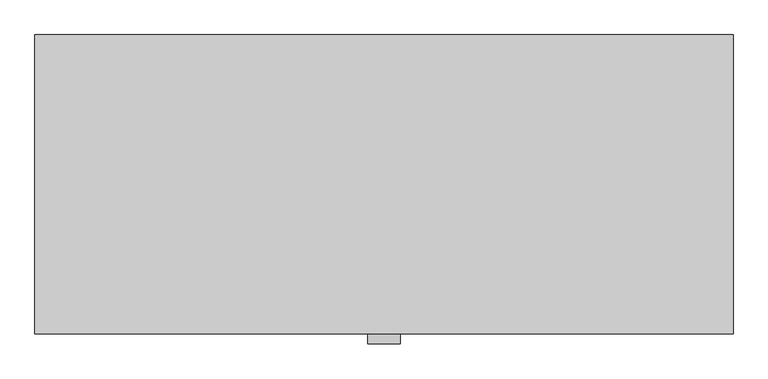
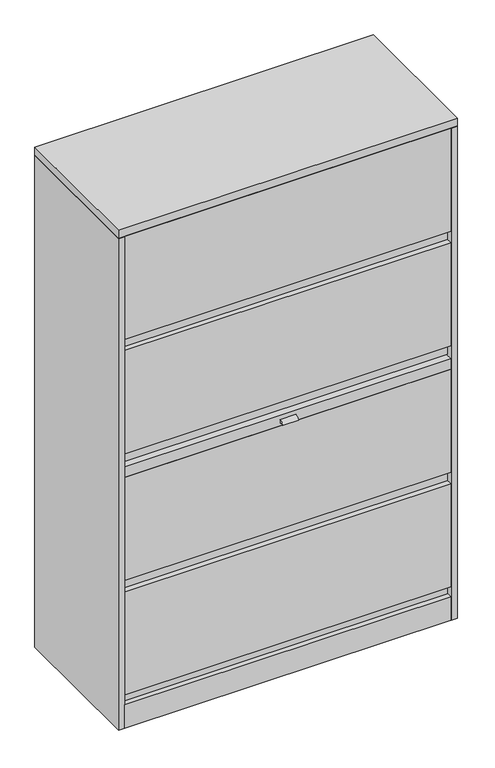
"""IFC4 building model written with IfcOpenShell, lengths in millimetres: furniture geometry, Steelcase - 900 Series - Storage - Lateral File With Posting Shelf - Flush Steel : Four 15H Lift Up Door - 42W."""

import ifcopenshell
import ifcopenshell.guid

model = None  # the IFC model being written
_history = None  # IfcOwnerHistory: only IFC2X3 demands one
_inside = {}  # id of a spatial element -> (the spatial element, [elements in it])
_under = {}  # id of a project, library or spatial element -> (it, [spatial elements below it])
_declared = {}  # id of a project -> (the project, [libraries it declares])
_typed = {}  # id of a type object -> (the type object, [elements of that type])
_made_of = {}  # id of a material, layer set ... -> (it, [elements and type objects made of it])


def new_model(schema):
    """Start an empty IFC model of exactly this schema.

    Asked for "IFC4X3", IfcOpenShell would pick the latest addendum, in which some entities
    have other attributes; the version numbers below select the first issue.
    IFC2X3 requires an IfcOwnerHistory on every rooted entity: one is made here for all.
    """
    global model, _history
    if schema == "IFC4X3":
        model = ifcopenshell.file(schema_version=(4, 3, 0, 0))
    else:
        model = ifcopenshell.file(schema=schema)
    _inside.clear()
    _under.clear()
    _declared.clear()
    _typed.clear()
    _made_of.clear()
    _history = None
    if model.schema == "IFC2X3":
        org = make("IfcOrganization", Name="unknown")
        user = make(
            "IfcPersonAndOrganization",
            ThePerson=make("IfcPerson", FamilyName="unknown"),
            TheOrganization=org,
        )
        app = make(
            "IfcApplication",
            ApplicationDeveloper=org,
            Version="unknown",
            ApplicationFullName="unknown",
            ApplicationIdentifier="unknown",
        )
        _history = make(
            "IfcOwnerHistory",
            OwningUser=user,
            OwningApplication=app,
            ChangeAction="ADDED",
            CreationDate=0,
        )
    return model


def make(cls, **values):
    """One entity of the class cls with the attributes given. An attribute that is None is left unset."""
    return model.create_entity(
        cls, **{name: value for name, value in values.items() if value is not None}
    )


def rooted(cls, **values):
    """An entity with a GlobalId (a new one), such as an element, a storey or a relation."""
    return make(cls, GlobalId=ifcopenshell.guid.new(), OwnerHistory=_history, **values)


def si_unit(unit_type, name, prefix=None):
    """IfcSIUnit, for example si_unit("LENGTHUNIT", "METRE", prefix="MILLI")."""
    return make("IfcSIUnit", UnitType=unit_type, Prefix=prefix, Name=name)


def assignment(units):
    """IfcUnitAssignment: the units of a project."""
    return None if units is None else make("IfcUnitAssignment", Units=units)


def point(xyz):
    """IfcCartesianPoint."""
    return None if xyz is None else make("IfcCartesianPoint", Coordinates=xyz)


def direction(xyz):
    """IfcDirection."""
    return None if xyz is None else make("IfcDirection", DirectionRatios=xyz)


def frame(location, z_axis=None, x_axis=None):
    """IfcAxis2Placement3D, a coordinate frame: its origin and axes. An axis left out is left unset."""
    return make(
        "IfcAxis2Placement3D",
        Location=point(location),
        Axis=direction(z_axis),
        RefDirection=direction(x_axis),
    )


def frame_2d(location, x_axis=None):
    """IfcAxis2Placement2D, a coordinate frame in the plane: its origin and x axis."""
    return make(
        "IfcAxis2Placement2D", Location=point(location), RefDirection=direction(x_axis)
    )


def origin():
    """The frame at (0, 0, 0) with its axes left unset."""
    return frame((0.0, 0.0, 0.0))


def origin_with_axes():
    """The frame at (0, 0, 0) with the z axis (0, 0, 1) and the x axis (1, 0, 0) written out."""
    return frame((0.0, 0.0, 0.0), z_axis=(0.0, 0.0, 1.0), x_axis=(1.0, 0.0, 0.0))


def place(relative_to, where):
    """IfcLocalPlacement: puts the frame where relative to a parent placement (None: the world)."""
    return make(
        "IfcLocalPlacement", PlacementRelTo=relative_to, RelativePlacement=where
    )


def context(
    kind, dimensions, precision=None, world=None, true_north=None, identifier=None
):
    """IfcGeometricRepresentationContext, for example the 3D "Model" context."""
    return make(
        "IfcGeometricRepresentationContext",
        ContextIdentifier=identifier,
        ContextType=kind,
        CoordinateSpaceDimension=dimensions,
        Precision=precision,
        WorldCoordinateSystem=world,
        TrueNorth=true_north,
    )


def project(units=None, contexts=None):
    """IfcProject with its units and contexts."""
    return rooted(
        "IfcProject",
        Name="project",
        RepresentationContexts=contexts,
        UnitsInContext=assignment(units),
    )


def spatial(cls, under=None, at=None, **own):
    """A site, building, storey or space (cls), placed at a placement, below another one or the project."""
    s = rooted(cls, ObjectPlacement=at, **own)
    if under is not None:
        _under.setdefault(under.id(), (under, []))[1].append(s)
    return s


def polyline(points):
    """IfcPolyline through the points."""
    return make("IfcPolyline", Points=[point(p) for p in points])


def circle_curve(where, radius):
    """IfcCircle in the frame where."""
    return make("IfcCircle", Position=where, Radius=radius)


def trimmed(basis, trim1, trim2, sense, master):
    """IfcTrimmedCurve: the piece of a basis curve between two trims."""
    return make(
        "IfcTrimmedCurve",
        BasisCurve=basis,
        Trim1=trim1,
        Trim2=trim2,
        SenseAgreement=sense,
        MasterRepresentation=master,
    )


def segment(curve, same_sense, transition):
    """IfcCompositeCurveSegment."""
    return make(
        "IfcCompositeCurveSegment",
        Transition=transition,
        SameSense=same_sense,
        ParentCurve=curve,
    )


def composite_curve(segments, self_intersect=None):
    """IfcCompositeCurve: segments joined end to end."""
    return make("IfcCompositeCurve", Segments=segments, SelfIntersect=self_intersect)


def outline(outer, holes=None, kind="AREA"):
    """IfcArbitraryClosedProfileDef: a profile drawn as a closed curve; with holes, ...WithVoids."""
    if holes is None:
        return make("IfcArbitraryClosedProfileDef", ProfileType=kind, OuterCurve=outer)
    return make(
        "IfcArbitraryProfileDefWithVoids",
        ProfileType=kind,
        OuterCurve=outer,
        InnerCurves=holes,
    )


def extrude(swept, where, along, depth):
    """IfcExtrudedAreaSolid: the profile swept, set in the frame where, extruded along a direction by depth."""
    return make(
        "IfcExtrudedAreaSolid",
        SweptArea=swept,
        Position=where,
        ExtrudedDirection=direction(along),
        Depth=depth,
    )


def faces_of(points, faces, orient=None, outer=None):
    """IfcFace entities. A face is a list of loops; a loop is a list of indices into points, from 0.

    orient and outer hold one flag for each loop. By default every Orientation is true, the
    first loop of a face is its IfcFaceOuterBound and the others are IfcFaceBound.
    """
    made = []
    for i, loops in enumerate(faces):
        bounds = []
        for j, loop in enumerate(loops):
            is_outer = j == 0 if outer is None else outer[i][j]
            bounds.append(
                make(
                    "IfcFaceOuterBound" if is_outer else "IfcFaceBound",
                    Bound=make("IfcPolyLoop", Polygon=[points[k] for k in loop]),
                    Orientation=True if orient is None else orient[i][j],
                )
            )
        made.append(make("IfcFace", Bounds=bounds))
    return made


def faceted_brep(points, faces, orient=None, outer=None, voids=None):
    """IfcFacetedBrep: a solid bounded by flat faces; with voids (closed shells), ...WithVoids."""
    shared = [point(p) for p in points]
    hull = make("IfcClosedShell", CfsFaces=faces_of(shared, faces, orient, outer))
    if voids is None:
        return make("IfcFacetedBrep", Outer=hull)
    return make(
        "IfcFacetedBrepWithVoids",
        Outer=hull,
        Voids=[
            make(cls, CfsFaces=faces_of(shared, fs, o, b)) for cls, fs, o, b in voids
        ],
    )


def shape(context_of_items, identifier, shape_type, items):
    """IfcShapeRepresentation: the items that make up one representation, for example the "Body"."""
    return make(
        "IfcShapeRepresentation",
        ContextOfItems=context_of_items,
        RepresentationIdentifier=identifier,
        RepresentationType=shape_type,
        Items=items,
    )


def source(mapping_origin, context_of_items, identifier, shape_type, items):
    """IfcRepresentationMap: a shape defined once, which mapped items show again and again."""
    return make(
        "IfcRepresentationMap",
        MappingOrigin=mapping_origin,
        MappedRepresentation=shape(context_of_items, identifier, shape_type, items),
    )


def transform(
    local_origin,
    x_axis=None,
    y_axis=None,
    z_axis=None,
    scale=None,
    scale2=None,
    scale3=None,
    uniform=True,
):
    """IfcCartesianTransformationOperator3D, or its non-uniform kind. x_axis, y_axis, z_axis: its Axis1, 2, 3."""
    if uniform:
        return make(
            "IfcCartesianTransformationOperator3D",
            Axis1=direction(x_axis),
            Axis2=direction(y_axis),
            LocalOrigin=point(local_origin),
            Scale=scale,
            Axis3=direction(z_axis),
        )
    return make(
        "IfcCartesianTransformationOperator3DnonUniform",
        Axis1=direction(x_axis),
        Axis2=direction(y_axis),
        LocalOrigin=point(local_origin),
        Scale=scale,
        Axis3=direction(z_axis),
        Scale2=scale2,
        Scale3=scale3,
    )


def mapped(mapping_source, mapping_target):
    """IfcMappedItem: shows the shape of a source again, moved by a transform."""
    return make(
        "IfcMappedItem", MappingSource=mapping_source, MappingTarget=mapping_target
    )


def made_of(thing, what):
    """Note that an element or type object is made of a material, layer set ...; save() writes the relation."""
    if what is not None:
        _made_of.setdefault(what.id(), (what, []))[1].append(thing)
    return thing


def element(
    cls,
    number,
    at=None,
    inside=None,
    cuts=None,
    type_object=None,
    material=None,
    context=None,
    identifier="Body",
    shape_type=None,
    held_by="IfcProductDefinitionShape",
    body=None,
    shapes=None,
    **own,
):
    """One element of the class cls, such as IfcWall. Its Tag is "e" and its number.

    at: its placement. inside: the storey or other place that contains it. cuts: it is an
    opening in that element (IfcRelVoidsElement). A single representation is given by context,
    identifier, shape_type and body (its items); several are given by shapes. held_by: the class
    of the entity that holds the representations. save() writes the other relations.
    """
    e = rooted(cls, Tag="e%d" % number, ObjectPlacement=at, **own)
    if body is not None:
        shapes = [shape(context, identifier, shape_type, body)]
    if shapes is not None:
        e.Representation = make(held_by, Representations=shapes)
    if inside is not None:
        _inside.setdefault(inside.id(), (inside, []))[1].append(e)
    if cuts is not None:
        rooted(
            "IfcRelVoidsElement", RelatingBuildingElement=cuts, RelatedOpeningElement=e
        )
    if type_object is not None:
        _typed.setdefault(type_object.id(), (type_object, []))[1].append(e)
    return made_of(e, material)


def aggregate(whole, parts):
    """IfcRelAggregates: a whole, such as a stair, and the parts it consists of."""
    return rooted("IfcRelAggregates", RelatingObject=whole, RelatedObjects=parts)


def save(model, path):
    """Write the relations noted so far, then the file.

    IfcRelAggregates (storeys below a building ...), IfcRelContainedInSpatialStructure (elements
    in a storey), IfcRelDefinesByType, IfcRelAssociatesMaterial and IfcRelDeclares: one each for
    every whole, place, type object, material and project.
    """
    for whole, parts in _under.values():
        aggregate(whole, parts)
    for where, things in _inside.values():
        rooted(
            "IfcRelContainedInSpatialStructure",
            RelatedElements=things,
            RelatingStructure=where,
        )
    for kind, things in _typed.values():
        rooted("IfcRelDefinesByType", RelatedObjects=things, RelatingType=kind)
    for what, things in _made_of.values():
        rooted("IfcRelAssociatesMaterial", RelatedObjects=things, RelatingMaterial=what)
    for by, libraries in _declared.values():
        rooted("IfcRelDeclares", RelatingContext=by, RelatedDefinitions=libraries)
    model.write(path)


def furniture_a005d463(model_context):
    return source(origin(), model_context, "Body", "SolidModel", [
        extrude(outline(composite_curve([segment(polyline([(-457.2, 845.7259941), (-459.1278436, 845.7259941)]), True, "CONTINUOUS"), segment(trimmed(circle_curve(frame_2d((-465.1546853, 839.5924947)), 8.5989904), [point((-459.1278436, 845.7259941))], [point((-471.181527, 845.7259941))], True, "CARTESIAN"), True, "CONTINUOUS"), segment(polyline([(-471.181527, 845.7259941), (-472.2456768, 845.7259941)]), True, "CONTINUOUS"), segment(trimmed(circle_curve(frame_2d((-456.0306814, 838.2093196)), 17.872506), [point((-472.2456768, 845.7259941))], [point((-457.2, 856.0435329))], False, "CARTESIAN"), True, "CONTINUOUS"), segment(polyline([(-457.2, 856.0435329), (-457.2, 845.7259941)]), True, "CONTINUOUS")], self_intersect=False)), frame((508.762, 0.0, 0.0), z_axis=(1.0, 0.0, 0.0), x_axis=(0.0, 1.0, 0.0)), (0.0, 0.0, 1.0), 49.276),
        extrude(outline(polyline([(-439.6742224, 1290.3962373), (-457.2, 1294.7658834), (-457.2, 1637.8935942), (-431.800255, 1637.8935942), (-431.800255, 1255.8522686), (-439.6742224, 1255.8522686), (-439.6742224, 1290.3962373)])), frame((20.8289612, 0.0, 0.0), z_axis=(1.0, 0.0, 0.0), x_axis=(0.0, 1.0, 0.0)), (0.0, 0.0, 1.0), 1025.1432404),
        extrude(outline(polyline([(-439.6742224, 487.7562373), (-457.2, 492.1258834), (-457.2, 835.2535983), (-431.800255, 835.2535983), (-431.800255, 453.2121984), (-439.6742224, 453.2121984), (-439.6742224, 487.7562373)])), frame((20.8289612, 0.0, 0.0), z_axis=(1.0, 0.0, 0.0), x_axis=(0.0, 1.0, 0.0)), (0.0, 0.0, 1.0), 1025.1432404),
        extrude(outline(polyline([(-439.6742224, 106.7562373), (-457.2, 111.1258834), (-457.2, 454.2536007), (-431.800255, 454.2536007), (-431.800255, 77.9779983), (-439.6742224, 77.9779983), (-439.6742224, 106.7562373)])), frame((20.8289612, 0.0, 0.0), z_axis=(1.0, 0.0, 0.0), x_axis=(0.0, 1.0, 0.0)), (0.0, 0.0, 1.0), 1025.1432404),
        extrude(outline(polyline([(-439.6742224, 909.3962373), (-457.2, 913.7658834), (-457.2, 1256.8935983), (-431.800255, 1256.8935983), (-431.800255, 874.8521959), (-439.6742224, 874.8521959), (-439.6742224, 909.3962373)])), frame((20.8289612, 0.0, 0.0), z_axis=(1.0, 0.0, 0.0), x_axis=(0.0, 1.0, 0.0)), (0.0, 0.0, 1.0), 1025.1432404),
        extrude(outline(polyline([(1045.9722015, -457.2), (20.8289612, -457.2), (20.8289612, -431.800255), (1045.9722015, -431.800255), (1045.9722015, -457.2)])), frame((0.0, 0.0, 834.2122), z_axis=(0.0, 0.0, 1.0), x_axis=(1.0, 0.0, 0.0)), (0.0, 0.0, 1.0), 35.9156),
        extrude(outline(polyline([(-430.275847, 77.9779983), (-430.275847, 103.3780013), (-25.2721219, 103.3780013), (-25.2721219, 0.0), (-457.2, 0.0), (-457.2, 77.9779983), (-430.275847, 77.9779983)])), frame((19.3039998, 0.0, 0.0), z_axis=(1.0, 0.0, 0.0), x_axis=(0.0, 1.0, 0.0)), (0.0, 0.0, 1.0), 1026.6682018),
        faceted_brep([(1066.8, 0.0, 1663.7), (0.0, 0.0, 1663.7), (0.0, -457.2, 1663.7), (1066.8, -457.2, 1663.7), (1066.8, 0.0, 1638.2999516), (1066.8, -457.2, 1638.2999516), (0.0, -457.2, 1638.2999516), (0.0, 0.0, 1638.2999516), (1047.4960184, -25.2721219, 1638.2999516), (20.8289612, -25.2721219, 1638.2999516), (20.8289612, -415.9241219, 1638.2999516), (1047.4960184, -415.9241219, 1638.2999516), (1047.4960184, -25.2721219, 1636.776), (1047.4960184, -415.9241219, 1636.776), (20.8289612, -415.9241219, 1636.776), (20.8289612, -25.2721219, 1636.776)], [[[0, 1, 2, 3]], [[4, 5, 6, 7], [8, 9, 10, 11]], [[1, 0, 4, 7]], [[2, 1, 7, 6]], [[3, 2, 6, 5]], [[0, 3, 5, 4]], [[12, 13, 14, 15]], [[12, 15, 9, 8]], [[15, 14, 10, 9]], [[14, 13, 11, 10]], [[13, 12, 8, 11]]]),
        extrude(outline(polyline([(1047.4960184, -25.2721219), (19.3039998, -25.2721219), (19.3039998, -457.2), (0.0, -457.2), (0.0, 0.0), (1066.8, 0.0), (1066.8, -457.2), (1047.4960184, -457.2), (1047.4960184, -25.2721219)])), origin_with_axes(), (0.0, 0.0, 1.0), 1636.776),
    ])


if __name__ == "__main__":
    model = new_model("IFC4")
    model_context = context("Model", 3, world=origin())
    ifc_project = project(units=[si_unit("LENGTHUNIT", "METRE", prefix="MILLI")], contexts=[model_context])
    site = spatial("IfcSite", under=ifc_project)
    building = spatial("IfcBuilding", under=site)
    placement = place(None, origin())
    furniture_shape = furniture_a005d463(model_context)
    element("IfcFurniture", 1, ObjectType="Steelcase - 900 Series - Storage - Lateral File With Posting Shelf - Flush Steel : Four 15H Lift Up Door - 42W", at=placement, inside=building, context=model_context, shape_type="MappedRepresentation", body=[
        mapped(furniture_shape, transform((0.0, 0.0, 0.0), x_axis=(1.0, 0.0, 0.0), y_axis=(0.0, 1.0, 0.0), z_axis=(0.0, 0.0, 1.0))),
    ])
    save(model, "model.ifc")
